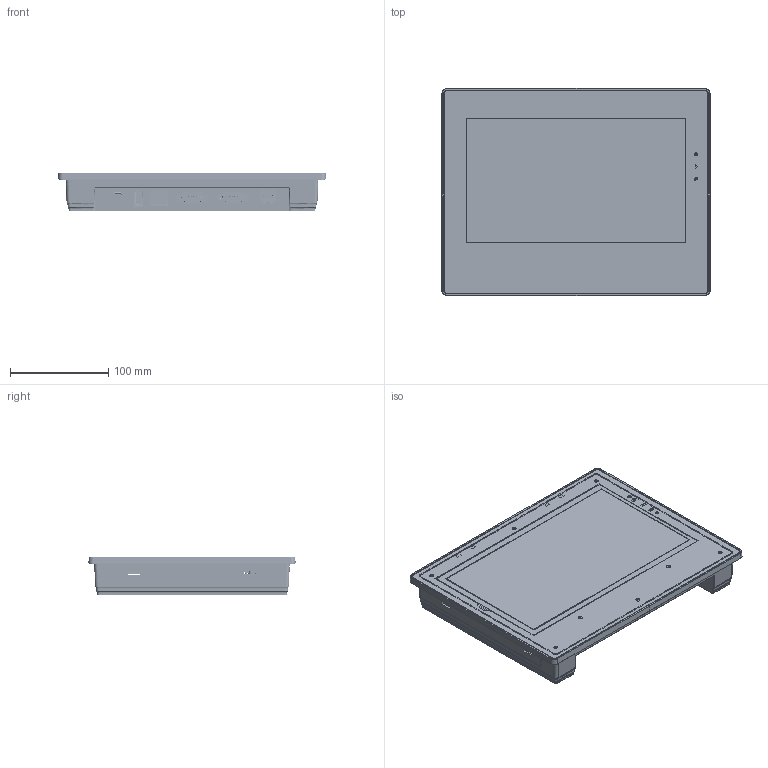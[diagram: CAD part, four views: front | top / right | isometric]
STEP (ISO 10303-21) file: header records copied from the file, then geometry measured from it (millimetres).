
FILE_DESCRIPTION(/* description */ ('FreeCAD Model'),/* implementation_level */ '2;1');
FILE_NAME(/* name */ '487b6cf6-8d48-4aeb-8e10-8e5714cb58a1.zip.stp',/* time_stamp */ '2026-04-09T14:51:32Z',/* author */ (''),/* organization */ (''),/* preprocessor_version */ 'ST-DEVELOPER v20.1',/* originating_system */ 'Autodesk Translation Framework v15.8.0.0',/* authorisation */ '');
FILE_SCHEMA (('AUTOMOTIVE_DESIGN { 1 0 10303 214 3 1 1 }'));
Products named in the file (3): Unnamed; HMI-102U3SE-ASM-ACTIVE_ASM_237_ASM; 2171750001
Assembly tree (2 placements, depth 2):
  Unnamed
    HMI-102U3SE-ASM-ACTIVE_ASM_237_ASM
    2171750001
Bounding box: 272.97 x 210.97 x 39.45 mm (x, y, z)
Volume: 542348.9 mm3; surface area: 571641 mm2
Topology: 18 solids, 35 shells, 9064 faces, 23827 edges, 15383 vertices
Faces by surface type: plane 5932, cylinder 2219, bspline 584, sphere 122, torus 121, cone 86
Full cylindrical faces by diameter (mm): 0.05 x2, 0.5 x3, 0.6 x9, 0.85 x9, 0.95 x12, 1 x18, 1.25 x4, 1.7 x4, 2 x6, 2.2 x2, 2.5 x4, 2.6 x12, 2.8 x2, 3 x5, 3.2 x2, 3.3 x4, 3.5 x6, 4.725 x1, 5.5 x2, 6 x8, 6.6 x6, 9 x4
Entity records: 312452 total; most frequent: CARTESIAN_POINT 87646, ORIENTED_EDGE 47628, DIRECTION 44006, EDGE_CURVE 23814, LINE 17780, VECTOR 17780, VERTEX_POINT 15383, AXIS2_PLACEMENT_3D 13113
